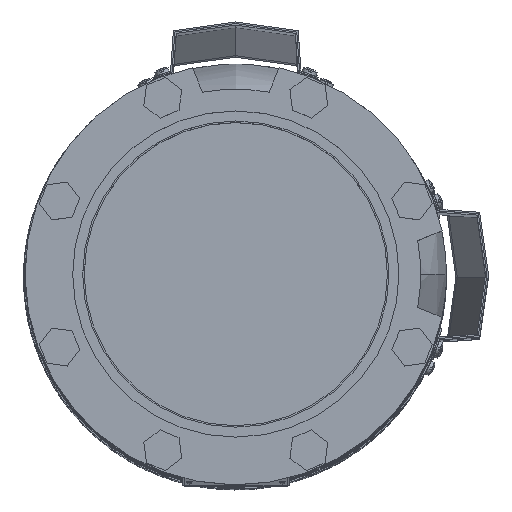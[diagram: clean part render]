
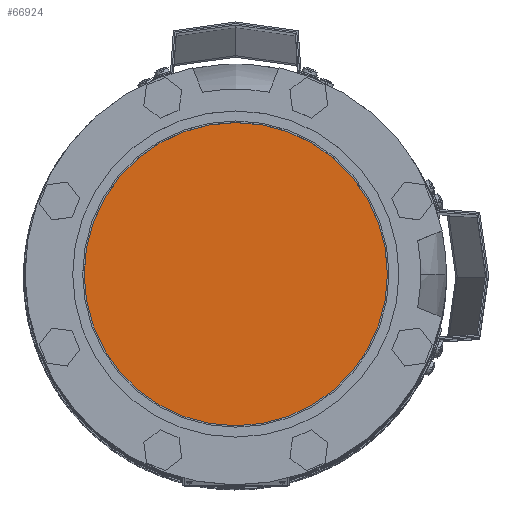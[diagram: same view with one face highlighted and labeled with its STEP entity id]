
A CAD part, top view. The second image highlights one B-rep face of the part: STEP entity #66924.
In plain terms, the highlighted planar face has unit normal (0, 0, 1) as drawn and (0, 1, 0) by its records, which use the part's own axes.
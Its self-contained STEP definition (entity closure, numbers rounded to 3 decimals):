
#616=CIRCLE('',#70530,102.5);
#617=CIRCLE('',#70531,102.5);
#16247=ORIENTED_EDGE('',*,*,#36511,.F.);
#16248=ORIENTED_EDGE('',*,*,#36512,.T.);
#36511=EDGE_CURVE('',#46643,#46644,#616,.T.);
#36512=EDGE_CURVE('',#46643,#46644,#617,.T.);
#46643=VERTEX_POINT('',#96530);
#46644=VERTEX_POINT('',#96531);
#54171=EDGE_LOOP('',(#16247,#16248));
#59034=FACE_BOUND('',#54171,.T.);
#63896=PLANE('',#70529);
#66924=ADVANCED_FACE('',(#59034),#63896,.T.);
#70529=AXIS2_PLACEMENT_3D('',#96528,#77088,#77089);
#70530=AXIS2_PLACEMENT_3D('',#96529,#77090,#77091);
#70531=AXIS2_PLACEMENT_3D('',#96532,#77092,#77093);
#77088=DIRECTION('',(0.,1.,0.));
#77089=DIRECTION('',(-1.,0.,0.));
#77090=DIRECTION('',(0.,-1.,0.));
#77091=DIRECTION('',(-1.,0.,0.));
#77092=DIRECTION('',(0.,1.,0.));
#77093=DIRECTION('',(-1.,0.,0.));
#96528=CARTESIAN_POINT('',(-109.56,216.5,0.));
#96529=CARTESIAN_POINT('',(0.,216.5,0.));
#96530=CARTESIAN_POINT('',(-102.5,216.5,0.));
#96531=CARTESIAN_POINT('',(102.5,216.5,0.));
#96532=CARTESIAN_POINT('',(0.,216.5,0.));
